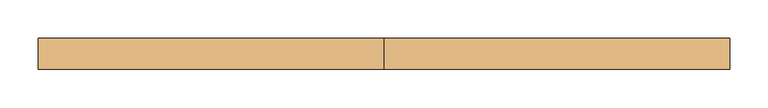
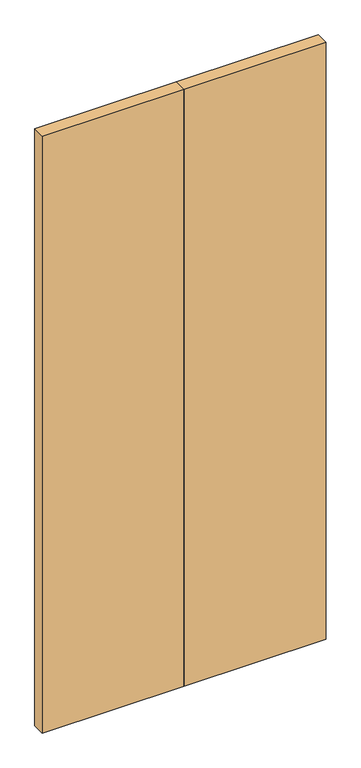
"""IFC4 building model written with IfcOpenShell, lengths in millimetres: door geometry, 営_両開き扉 : LD5 900*2000."""

from ifc_helpers import new_model, si_unit, origin, origin_with_axes, place, context, project, spatial, polyline, outline, extrude, source, transform, mapped, element, save


def door_f9cae23c(model_context):
    return source(origin(), model_context, "Body", "SweptSolid", [
        extrude(outline(polyline([(0.0, 15.0), (0.0, 55.0), (450.0, 55.0), (450.0, 15.0), (0.0, 15.0)])), origin_with_axes(), (0.0, 0.0, 1.0), 2000.0),
        extrude(outline(polyline([(0.0, 15.0), (-450.0, 15.0), (-450.0, 55.0), (0.0, 55.0), (0.0, 15.0)])), origin_with_axes(), (0.0, 0.0, 1.0), 2000.0),
    ])


if __name__ == "__main__":
    model = new_model("IFC4")
    model_context = context("Model", 3, world=origin())
    ifc_project = project(units=[si_unit("LENGTHUNIT", "METRE", prefix="MILLI")], contexts=[model_context])
    site = spatial("IfcSite", under=ifc_project)
    building = spatial("IfcBuilding", under=site)
    placement = place(None, origin())
    door_shape = door_f9cae23c(model_context)
    element("IfcDoor", 1, ObjectType="営_両開き扉 : LD5 900*2000", at=placement, inside=building, context=model_context, shape_type="MappedRepresentation", body=[
        mapped(door_shape, transform((0.0, 0.0, 0.0), x_axis=(1.0, 0.0, 0.0), y_axis=(0.0, 1.0, 0.0), z_axis=(0.0, 0.0, 1.0))),
    ])
    save(model, "model.ifc")
